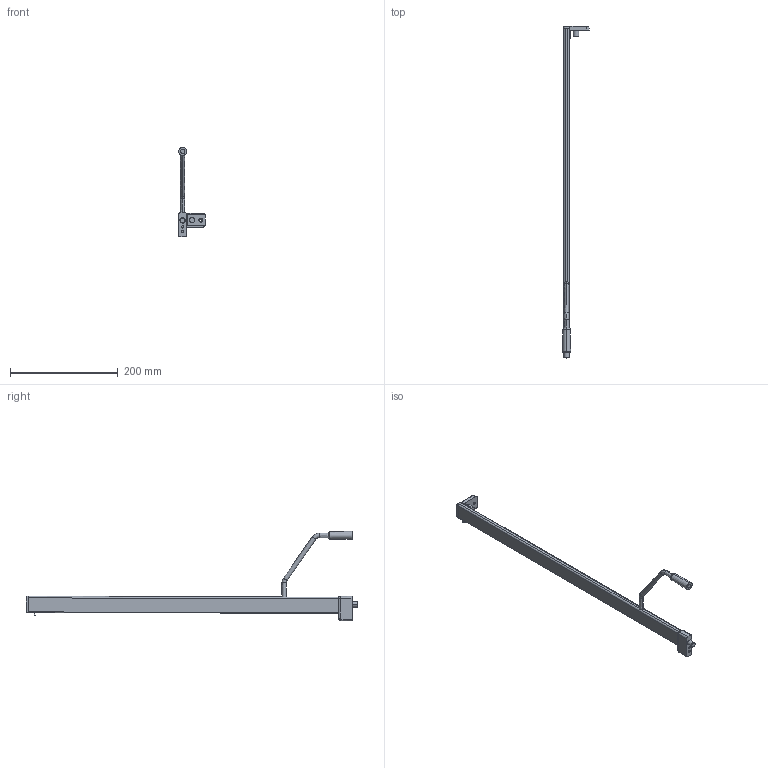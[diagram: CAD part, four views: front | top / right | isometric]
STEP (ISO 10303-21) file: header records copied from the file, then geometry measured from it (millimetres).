
FILE_DESCRIPTION (( 'STEP AP214' ), '1' );
FILE_NAME ('_2S_REL_7606_NL600_LI_Frontstütze.step', '2010-07-01T14:42:09', ( 'grass' ), ( '' ), 'SwSTEP 2.0', 'SolidWorks 2009', '' );
FILE_SCHEMA (( 'AUTOMOTIVE_DESIGN' ));
Length unit declared in the file: millimetre
Products named in the file (1): _2S_REL_7606_NL600_LI_Frontstütze
Bounding box: 49.75 x 615.5 x 165.5 mm (x, y, z)
Volume: 215523.1 mm3; surface area: 59157.8 mm2
Topology: 2 solids, 2 shells, 142 faces, 337 edges, 203 vertices
Faces by surface type: cylinder 60, plane 46, bspline 16, torus 12, cone 6, sphere 2
Entity records: 5241 total; most frequent: CARTESIAN_POINT 2069, ORIENTED_EDGE 670, DIRECTION 647, EDGE_CURVE 335, AXIS2_PLACEMENT_3D 247, VERTEX_POINT 203, LINE 153, VECTOR 153
